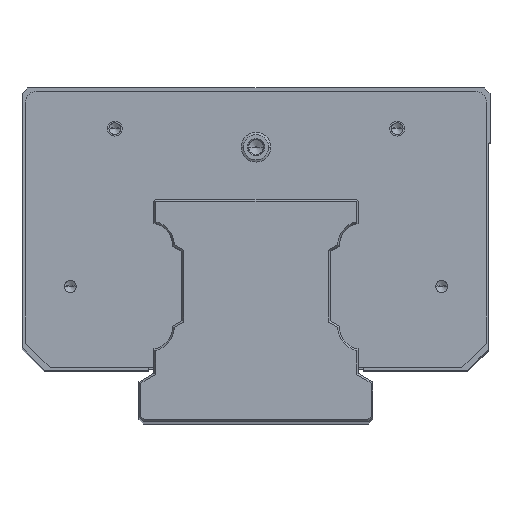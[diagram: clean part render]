
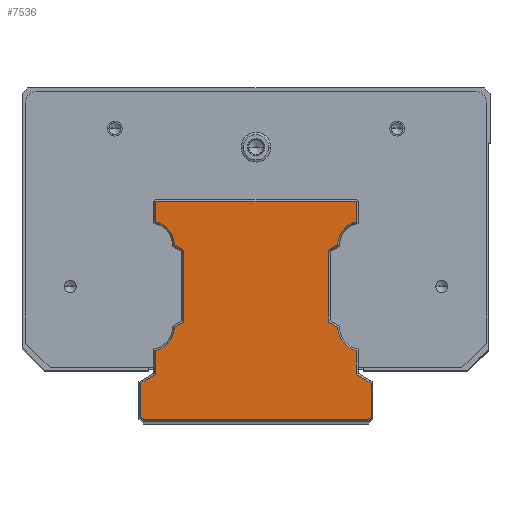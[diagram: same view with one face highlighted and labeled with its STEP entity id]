
A CAD part, top view. The second image highlights one B-rep face of the part: STEP entity #7536.
In plain terms, the highlighted planar face has unit normal (0, 0, 1).
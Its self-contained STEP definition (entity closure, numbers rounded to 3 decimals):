
#6850=DIRECTION('',(-1.,0.,0.));
#6851=VECTOR('',#6850,54.);
#6852=CARTESIAN_POINT('',(27.,22.85,186.5));
#6853=LINE('',#6852,#6851);
#6854=DIRECTION('',(0.,1.,0.));
#6855=VECTOR('',#6854,5.508);
#6856=CARTESIAN_POINT('',(27.,17.342,186.5));
#6857=LINE('',#6856,#6855);
#6858=DIRECTION('',(0.866,0.5,0.));
#6859=VECTOR('',#6858,2.85);
#6860=CARTESIAN_POINT('',(19.5,9.689,186.5));
#6861=LINE('',#6860,#6859);
#6862=DIRECTION('',(0.,1.,0.));
#6863=VECTOR('',#6862,19.377);
#6864=CARTESIAN_POINT('',(19.5,-9.689,186.5));
#6865=LINE('',#6864,#6863);
#6866=DIRECTION('',(-0.866,0.5,0.));
#6867=VECTOR('',#6866,2.85);
#6868=CARTESIAN_POINT('',(21.968,-11.114,186.5));
#6869=LINE('',#6868,#6867);
#6870=DIRECTION('',(0.,1.,0.));
#6871=VECTOR('',#6870,6.446);
#6872=CARTESIAN_POINT('',(27.,-23.789,186.5));
#6873=LINE('',#6872,#6871);
#6874=DIRECTION('',(-0.866,0.5,0.));
#6875=VECTOR('',#6874,4.619);
#6876=CARTESIAN_POINT('',(31.,-26.098,186.5));
#6877=LINE('',#6876,#6875);
#6878=DIRECTION('',(0.,1.,0.));
#6879=VECTOR('',#6878,8.995);
#6880=CARTESIAN_POINT('',(31.,-35.093,186.5));
#6881=LINE('',#6880,#6879);
#6882=DIRECTION('',(0.707,0.707,0.));
#6883=VECTOR('',#6882,1.283);
#6884=CARTESIAN_POINT('',(30.093,-36.,186.5));
#6885=LINE('',#6884,#6883);
#6886=DIRECTION('',(1.,0.,0.));
#6887=VECTOR('',#6886,60.186);
#6888=CARTESIAN_POINT('',(-30.093,-36.,186.5));
#6889=LINE('',#6888,#6887);
#6890=DIRECTION('',(0.707,-0.707,0.));
#6891=VECTOR('',#6890,1.283);
#6892=CARTESIAN_POINT('',(-31.,-35.093,186.5));
#6893=LINE('',#6892,#6891);
#6894=DIRECTION('',(0.,-1.,0.));
#6895=VECTOR('',#6894,8.995);
#6896=CARTESIAN_POINT('',(-31.,-26.098,186.5));
#6897=LINE('',#6896,#6895);
#6898=DIRECTION('',(-0.866,-0.5,0.));
#6899=VECTOR('',#6898,4.619);
#6900=CARTESIAN_POINT('',(-27.,-23.789,186.5));
#6901=LINE('',#6900,#6899);
#6902=DIRECTION('',(0.,-1.,0.));
#6903=VECTOR('',#6902,6.446);
#6904=CARTESIAN_POINT('',(-27.,-17.342,
186.5));
#6905=LINE('',#6904,#6903);
#6906=DIRECTION('',(-0.866,-0.5,0.));
#6907=VECTOR('',#6906,2.85);
#6908=CARTESIAN_POINT('',(-19.5,-9.689,186.5));
#6909=LINE('',#6908,#6907);
#6910=DIRECTION('',(0.,-1.,0.));
#6911=VECTOR('',#6910,19.377);
#6912=CARTESIAN_POINT('',(-19.5,9.689,186.5));
#6913=LINE('',#6912,#6911);
#6914=DIRECTION('',(0.866,-0.5,0.));
#6915=VECTOR('',#6914,2.85);
#6916=CARTESIAN_POINT('',(-21.968,11.114,186.5));
#6917=LINE('',#6916,#6915);
#6918=DIRECTION('',(0.,-1.,0.));
#6919=VECTOR('',#6918,5.508);
#6920=CARTESIAN_POINT('',(-27.,22.85,186.5));
#6921=LINE('',#6920,#6919);
#6949=CARTESIAN_POINT('',(-28.585,10.915,186.5));
#6950=DIRECTION('',(0.,0.,-1.));
#6951=DIRECTION('',(0.239,0.971,0.));
#6952=AXIS2_PLACEMENT_3D('',#6949,#6950,#6951);
#7009=CARTESIAN_POINT('',(-28.585,-10.915,186.5));
#7010=DIRECTION('',(0.,0.,-1.));
#7011=DIRECTION('',(1.,-0.03,0.));
#7012=AXIS2_PLACEMENT_3D('',#7009,#7010,#7011);
#7141=CARTESIAN_POINT('',(28.585,-10.915,186.5));
#7142=DIRECTION('',(0.,0.,-1.));
#7143=DIRECTION('',(-0.239,-0.971,0.));
#7144=AXIS2_PLACEMENT_3D('',#7141,#7142,#7143);
#7206=CARTESIAN_POINT('',(28.585,10.915,186.5));
#7207=DIRECTION('',(0.,0.,-1.));
#7208=DIRECTION('',(-1.,0.03,0.));
#7209=AXIS2_PLACEMENT_3D('',#7206,#7207,#7208);
#7298=CARTESIAN_POINT('',(27.,22.85,186.5));
#7299=CARTESIAN_POINT('',(-27.,22.85,186.5));
#7300=VERTEX_POINT('',#7298);
#7301=VERTEX_POINT('',#7299);
#7306=CARTESIAN_POINT('',(27.,17.342,186.5));
#7307=VERTEX_POINT('',#7306);
#7312=CARTESIAN_POINT('',(19.5,9.689,186.5));
#7313=CARTESIAN_POINT('',(21.968,11.114,186.5));
#7314=VERTEX_POINT('',#7312);
#7315=VERTEX_POINT('',#7313);
#7318=CARTESIAN_POINT('',(19.5,-9.689,186.5));
#7319=VERTEX_POINT('',#7318);
#7320=CARTESIAN_POINT('',(21.968,-11.114,186.5));
#7321=VERTEX_POINT('',#7320);
#7328=CARTESIAN_POINT('',(27.,-23.789,186.5));
#7329=CARTESIAN_POINT('',(27.,-17.342,186.5));
#7330=VERTEX_POINT('',#7328);
#7331=VERTEX_POINT('',#7329);
#7334=CARTESIAN_POINT('',(31.,-26.098,186.5));
#7335=VERTEX_POINT('',#7334);
#7338=CARTESIAN_POINT('',(31.,-35.093,186.5));
#7339=VERTEX_POINT('',#7338);
#7342=CARTESIAN_POINT('',(30.093,-36.,186.5));
#7343=VERTEX_POINT('',#7342);
#7346=CARTESIAN_POINT('',(-30.093,-36.,186.5));
#7347=VERTEX_POINT('',#7346);
#7350=CARTESIAN_POINT('',(-31.,-35.093,186.5));
#7351=VERTEX_POINT('',#7350);
#7354=CARTESIAN_POINT('',(-31.,-26.098,186.5));
#7355=VERTEX_POINT('',#7354);
#7358=CARTESIAN_POINT('',(-27.,-23.789,186.5));
#7359=VERTEX_POINT('',#7358);
#7362=CARTESIAN_POINT('',(-27.,-17.342,
186.5));
#7363=VERTEX_POINT('',#7362);
#7368=CARTESIAN_POINT('',(-19.5,-9.689,186.5));
#7369=CARTESIAN_POINT('',(-21.968,-11.114,
186.5));
#7370=VERTEX_POINT('',#7368);
#7371=VERTEX_POINT('',#7369);
#7374=CARTESIAN_POINT('',(-19.5,9.689,186.5));
#7375=VERTEX_POINT('',#7374);
#7378=CARTESIAN_POINT('',(-21.968,11.114,186.5));
#7379=VERTEX_POINT('',#7378);
#7382=CARTESIAN_POINT('',(-27.,17.342,186.5));
#7383=VERTEX_POINT('',#7382);
#7487=CARTESIAN_POINT('',(0.,0.,186.5));
#7488=DIRECTION('',(0.,0.,1.));
#7489=DIRECTION('',(1.,0.,0.));
#7490=AXIS2_PLACEMENT_3D('',#7487,#7488,#7489);
#7491=PLANE('',#7490);
#7493=ORIENTED_EDGE('',*,*,#7492,.F.);
#7495=ORIENTED_EDGE('',*,*,#7494,.F.);
#7497=ORIENTED_EDGE('',*,*,#7496,.F.);
#7499=ORIENTED_EDGE('',*,*,#7498,.F.);
#7500=ORIENTED_EDGE('',*,*,#7465,.F.);
#7501=ORIENTED_EDGE('',*,*,#7477,.F.);
#7503=ORIENTED_EDGE('',*,*,#7502,.F.);
#7505=ORIENTED_EDGE('',*,*,#7504,.F.);
#7507=ORIENTED_EDGE('',*,*,#7506,.F.);
#7509=ORIENTED_EDGE('',*,*,#7508,.F.);
#7511=ORIENTED_EDGE('',*,*,#7510,.F.);
#7513=ORIENTED_EDGE('',*,*,#7512,.F.);
#7515=ORIENTED_EDGE('',*,*,#7514,.F.);
#7517=ORIENTED_EDGE('',*,*,#7516,.F.);
#7519=ORIENTED_EDGE('',*,*,#7518,.F.);
#7521=ORIENTED_EDGE('',*,*,#7520,.F.);
#7523=ORIENTED_EDGE('',*,*,#7522,.F.);
#7525=ORIENTED_EDGE('',*,*,#7524,.F.);
#7527=ORIENTED_EDGE('',*,*,#7526,.F.);
#7529=ORIENTED_EDGE('',*,*,#7528,.F.);
#7531=ORIENTED_EDGE('',*,*,#7530,.F.);
#7533=ORIENTED_EDGE('',*,*,#7532,.F.);
#7534=EDGE_LOOP('',(#7493,#7495,#7497,#7499,#7500,#7501,#7503,#7505,#7507,#7509,
#7511,#7513,#7515,#7517,#7519,#7521,#7523,#7525,#7527,#7529,#7531,#7533));
#7535=FACE_OUTER_BOUND('',#7534,.F.);
#6953=CIRCLE('',#6952,6.62);
#7013=CIRCLE('',#7012,6.62);
#7145=CIRCLE('',#7144,6.62);
#7210=CIRCLE('',#7209,6.62);
#7465=EDGE_CURVE('',#7319,#7314,#6865,.T.);
#7477=EDGE_CURVE('',#7321,#7319,#6869,.T.);
#7492=EDGE_CURVE('',#7300,#7301,#6853,.T.);
#7494=EDGE_CURVE('',#7307,#7300,#6857,.T.);
#7496=EDGE_CURVE('',#7315,#7307,#7210,.T.);
#7498=EDGE_CURVE('',#7314,#7315,#6861,.T.);
#7502=EDGE_CURVE('',#7331,#7321,#7145,.T.);
#7504=EDGE_CURVE('',#7330,#7331,#6873,.T.);
#7506=EDGE_CURVE('',#7335,#7330,#6877,.T.);
#7508=EDGE_CURVE('',#7339,#7335,#6881,.T.);
#7510=EDGE_CURVE('',#7343,#7339,#6885,.T.);
#7512=EDGE_CURVE('',#7347,#7343,#6889,.T.);
#7514=EDGE_CURVE('',#7351,#7347,#6893,.T.);
#7516=EDGE_CURVE('',#7355,#7351,#6897,.T.);
#7518=EDGE_CURVE('',#7359,#7355,#6901,.T.);
#7520=EDGE_CURVE('',#7363,#7359,#6905,.T.);
#7522=EDGE_CURVE('',#7371,#7363,#7013,.T.);
#7524=EDGE_CURVE('',#7370,#7371,#6909,.T.);
#7526=EDGE_CURVE('',#7375,#7370,#6913,.T.);
#7528=EDGE_CURVE('',#7379,#7375,#6917,.T.);
#7530=EDGE_CURVE('',#7383,#7379,#6953,.T.);
#7532=EDGE_CURVE('',#7301,#7383,#6921,.T.);
#7536=ADVANCED_FACE('',(#7535),#7491,.T.);
